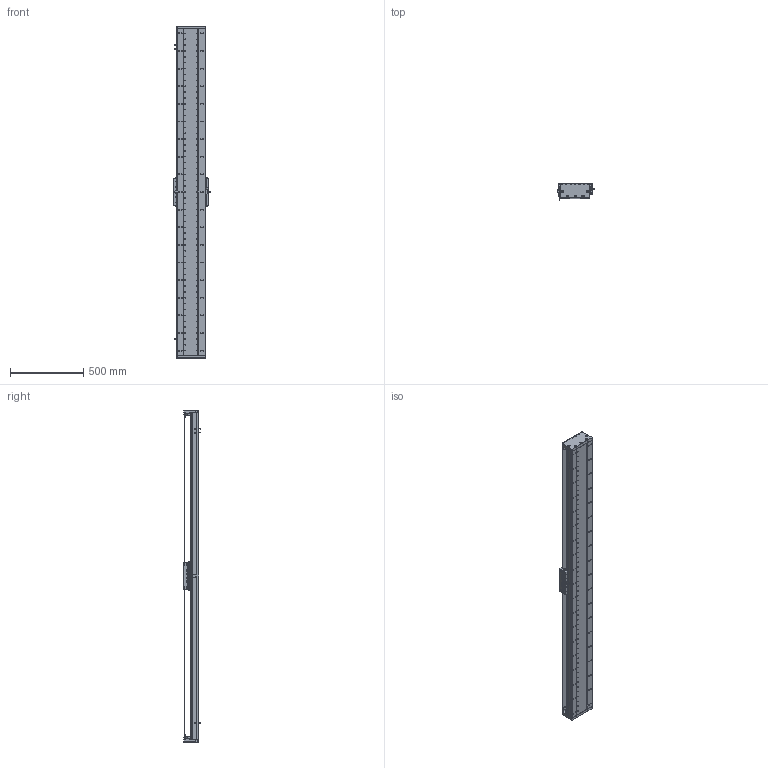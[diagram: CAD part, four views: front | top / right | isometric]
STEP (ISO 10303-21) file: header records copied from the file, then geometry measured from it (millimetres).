
FILE_DESCRIPTION (( 'STEP AP203' ), '1' );
FILE_NAME ('DA-C195-C2-T1980-C010-0.2 眻盄萇儂.STEP', '2025-08-15T01:10:00', ( '' ), ( '' ), 'SwSTEP 2.0', 'SolidWorks 2019', '' );
FILE_SCHEMA (( 'CONFIG_CONTROL_DESIGN' ));
Length unit declared in the file: millimetre
Products named in the file (15): DA195詩湍郪璃; DA195詩湍裔啣; DA195詩湍嶺輸; 葩璃 DA95-GT-T-00; DA-C195-C2-T1980-C010-0.2 眻盄萇儂; DA195詩湍菜輸; DA95-HXJ-00 遣喳砎蝶; IU-CU195-L 菁釱絳寢; DA165-GYP-00 光电感应片(默认); MS200 棠掑喜S315-T1740; IU-CU195-L-00 菁釱(L2220); CU195-C2賑輸-俋楷; PM-T45ㄗ侂狟ㄘ; DA-C195-GD-DB-H-00 傷啣; LMT黍杅芛
Assembly tree (29 placements, depth 3):
  DA-C195-C2-T1980-C010-0.2 眻盄萇儂
    DA195詩湍郪璃
      DA195詩湍菜輸  x2
      DA195詩湍裔啣
      DA195詩湍嶺輸  x2
      DA95-HXJ-00 遣喳砎蝶  x8
      DA-C195-GD-DB-H-00 傷啣  x2
    IU-CU195-L 菁釱絳寢
      IU-CU195-L-00 菁釱(L2220)
      葩璃 DA95-GT-T-00  x4
    LMT黍杅芛
    MS200 棠掑喜S315-T1740
    PM-T45ㄗ侂狟ㄘ  x3
    DA165-GYP-00 光电感应片(默认)
    CU195-C2賑輸-俋楷
Bounding box: 248 x 115.45 x 2260 mm (x, y, z)
Volume: 13234301.1 mm3; surface area: 3892183.8 mm2
Topology: 66 solids, 130 shells, 4244 faces, 11707 edges, 7351 vertices
Faces by surface type: cylinder 2231, plane 1395, cone 530, torus 52, sphere 36
Entity records: 133151 total; most frequent: CARTESIAN_POINT 35238, ORIENTED_EDGE 20298, DIRECTION 19816, EDGE_CURVE 10149, AXIS2_PLACEMENT_3D 7437, VERTEX_POINT 6553, VECTOR 4942, LINE 4942
